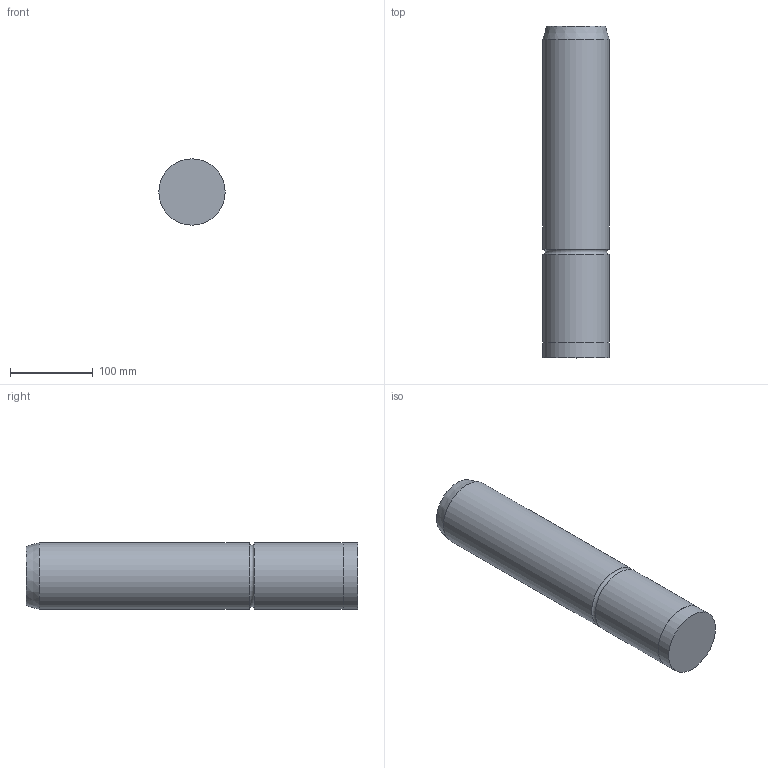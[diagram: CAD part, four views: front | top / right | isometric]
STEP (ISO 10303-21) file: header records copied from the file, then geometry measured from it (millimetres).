
FILE_DESCRIPTION( ( 'STEP AP203' ), '1' );
FILE_NAME( 'D:/Cuma/25 06 2009/D12/D12_80400.step', '2003-02-03T12:24:40', ( ' ' ), ( ' ' ), 'XStep 1.0', ' ', ' ' );
FILE_SCHEMA( ( 'CONFIG_CONTROL_DESIGN' ) );
Length unit declared in the file: metre
Products named in the file (1): 1
Bounding box: 80 x 400 x 80 mm (x, y, z)
Volume: 1998186.4 mm3; surface area: 110240.4 mm2
Topology: 1 solids, 1 shells, 8 faces, 12 edges, 7 vertices
Faces by surface type: plane 3, cylinder 3, cone 1, torus 1
Full cylindrical faces by diameter (mm): 79.8 x1, 80 x2
Entity records: 199 total; most frequent: DIRECTION 32, CARTESIAN_POINT 23, AXIS2_PLACEMENT_3D 16, EDGE_LOOP 14, ORIENTED_EDGE 14, FACE_OUTER_BOUND 12, ADVANCED_FACE 8, EDGE_CURVE 7
